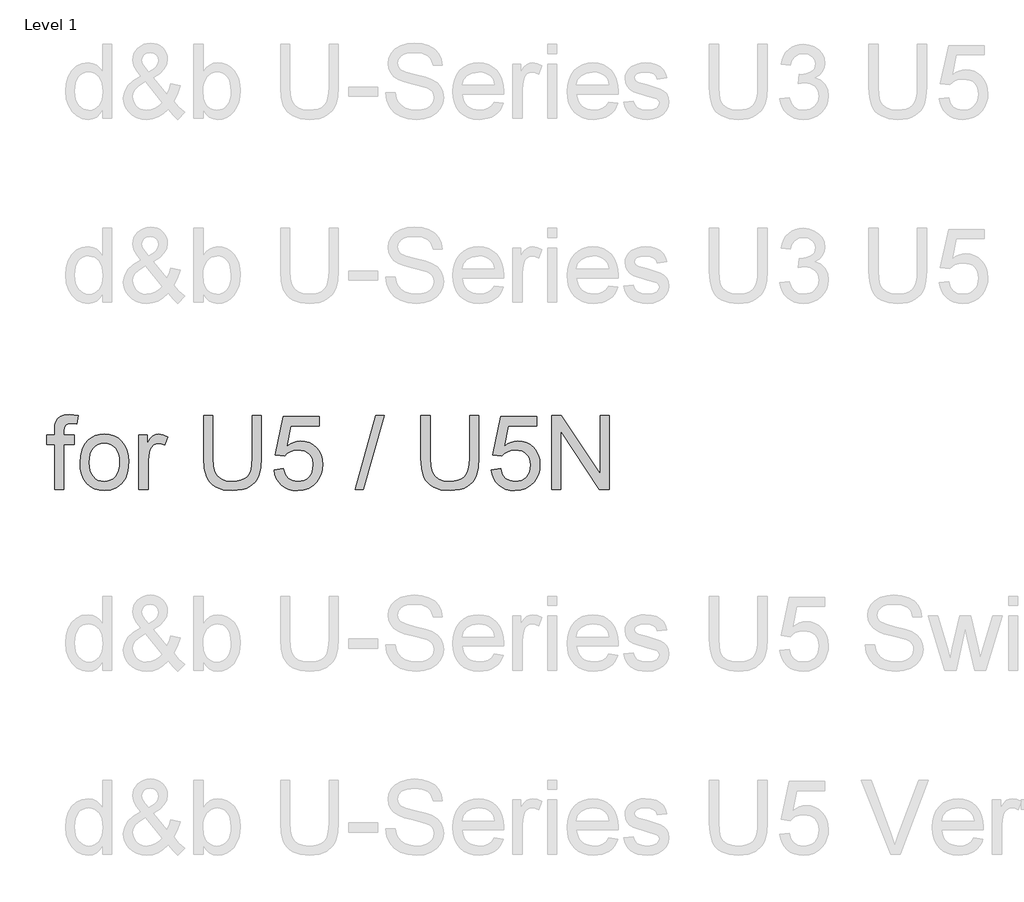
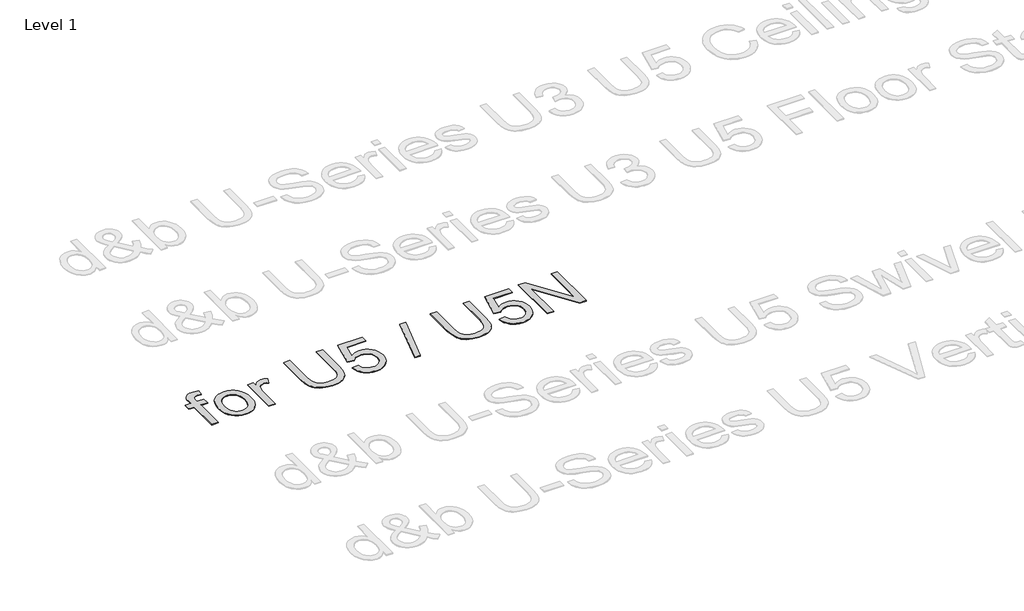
# One storey, part 8 of 29: 1 proxy.
"""IFC4 building model written with IfcOpenShell, lengths in millimetres."""

from ifc_helpers import new_model, si_unit, origin, origin_with_axes, place, context, project, spatial, polyline, outline, extrude, element, save

model = new_model("IFC4")

# Units and contexts
model_context = context("Model", 3, world=origin())
ifc_project = project(units=[si_unit("LENGTHUNIT", "METRE", prefix="MILLI")], contexts=[model_context])

# Site, building, storey
site = spatial("IfcSite", under=ifc_project)
building = spatial("IfcBuilding", under=site)
storey = spatial("IfcBuildingStorey", under=building, Name="Level 1", Elevation=0.0)

# Proxy
placement = place(None, origin())
element("IfcBuildingElementProxy", 1, Name="400mm Arial", ObjectType="400mm Arial", at=placement, inside=storey, context=model_context, shape_type="SweptSolid", body=[
    extrude(outline(polyline([(-21049.3412208, -2853.4987699), (-21049.3412208, -2608.636514), (-21093.2908565, -2608.636514), (-21093.2908565, -2558.4083589), (-21049.3412208, -2558.4083589), (-21049.3412208, -2528.6834937), (-21048.0168456, -2504.0844509), (-21044.0437201, -2486.7939971), (-21033.9392279, -2470.0921546), (-21018.3410313, -2456.8729282), (-20996.5133663, -2448.2644895), (-20967.7204688, -2445.39501), (-20921.9068977, -2450.8887144), (-20929.2645376, -2497.9776098), (-20958.2045879, -2495.623165), (-20977.2976634, -2497.7078297), (-20989.8424395, -2503.9618236), (-20996.7954092, -2515.9057257), (-20999.1130657, -2535.0601149), (-20999.1130657, -2558.4083589), (-20942.6063913, -2558.4083589), (-20942.6063913, -2608.636514), (-20999.1130657, -2608.636514), (-20999.1130657, -2853.4987699), (-21049.3412208, -2853.4987699)])), origin_with_axes(), (0.0, 0.0, 1.0), 5.0),
    extrude(outline(polyline([(-20911.2137944, -2705.9535644), (-20908.497599, -2667.7367565), (-20900.3490128, -2634.8051865), (-20886.7680358, -2607.1588546), (-20867.754668, -2584.7977607), (-20848.6125415, -2570.5055452), (-20827.4838522, -2560.2968198), (-20804.3686002, -2554.1715846), (-20779.2667854, -2552.1298395), (-20751.5560741, -2554.6161086), (-20726.5002446, -2562.0749161), (-20704.0992967, -2574.5062618), (-20684.3532307, -2591.9101459), (-20668.2369336, -2613.6979571), (-20656.7252928, -2639.2810841), (-20649.8183084, -2668.6595271), (-20647.5159802, -2701.8332861), (-20651.5872076, -2752.5764759), (-20663.8008899, -2791.2040854), (-20683.8014077, -2820.131873), (-20711.2331418, -2841.775597), (-20743.8152238, -2855.2768663), (-20779.2667854, -2859.7772893), (-20807.3821669, -2857.3002172), (-20832.6709884, -2849.8690009), (-20855.1332499, -2837.4836404), (-20874.7689514, -2820.1441357), (-20890.7135702, -2798.1447924), (-20902.1025836, -2771.7799161), (-20908.9359917, -2741.0495067), (-20911.2137944, -2705.9535644)]), holes=[polyline([(-20860.9856393, -2705.8554625), (-20859.5325054, -2730.2184477), (-20855.1731038, -2751.3134144), (-20847.9074343, -2769.1403628), (-20837.7354972, -2783.6992927), (-20825.3623994, -2795.0085984), (-20811.4932482, -2803.0866739), (-20796.1280435, -2807.9335192), (-20779.2667854, -2809.5491343), (-20762.4913664, -2807.9243221), (-20747.1874754, -2803.0498857), (-20733.3551124, -2794.9258249), (-20720.9942774, -2783.5521399), (-20710.8223402, -2768.8491229), (-20703.5566708, -2750.737066), (-20699.1972692, -2729.2159692), (-20697.7441353, -2704.2858327), (-20699.2064662, -2680.6953998), (-20703.593459, -2660.152256), (-20710.9051137, -2642.6564015), (-20721.1414302, -2628.2078361), (-20733.5482505, -2616.8985304), (-20747.3714164, -2608.8204549), (-20762.6109281, -2603.9736097), (-20779.2667854, -2602.3579946), (-20796.1280435, -2603.9674783), (-20811.4932482, -2608.7959295), (-20825.3623994, -2616.8433481), (-20837.7354972, -2628.1097342), (-20847.9074343, -2642.6257446), (-20855.1731038, -2660.4220361), (-20859.5325054, -2681.4986088), (-20860.9856393, -2705.8554625)])]), origin_with_axes(), (0.0, 0.0, 1.0), 5.0),
    extrude(outline(polyline([(-20591.0093057, -2853.4987699), (-20591.0093057, -2558.4083589), (-20547.0596701, -2558.4083589), (-20547.0596701, -2602.063689), (-20530.8238113, -2576.7534077), (-20515.8632769, -2561.8419242), (-20500.8536915, -2554.5578607), (-20484.4706799, -2552.1298395), (-20459.4547043, -2556.0048632), (-20434.0463211, -2567.6299342), (-20450.8217401, -2612.6586904), (-20468.4800759, -2604.9331685), (-20486.1384117, -2602.3579946), (-20501.1357343, -2604.8350667), (-20514.5389017, -2612.266283), (-20525.3668951, -2624.0875577), (-20532.6386958, -2639.7348053), (-20538.745537, -2667.7919388), (-20540.7811507, -2698.3997208), (-20540.7811507, -2853.4987699), (-20591.0093057, -2853.4987699)])), origin_with_axes(), (0.0, 0.0, 1.0), 5.0),
    extrude(outline(polyline([(-19975.7144061, -2451.6735293), (-19925.486251, -2451.6735293), (-19925.486251, -2683.4882372), (-19928.8952908, -2737.775357), (-19939.1224103, -2779.5790144), (-19947.3077847, -2796.532243), (-19958.2277486, -2811.8300026), (-19988.2714449, -2837.459115), (-20007.4135713, -2847.2233162), (-20029.3270755, -2854.1977457), (-20081.468217, -2859.7772893), (-20132.4689242, -2854.921247), (-20173.242512, -2840.35312), (-20189.7972018, -2829.5527177), (-20203.8012431, -2816.5756804), (-20215.2546359, -2801.4220078), (-20224.1573802, -2784.0917002), (-20235.5985102, -2740.5222092), (-20239.4122202, -2683.4882372), (-20239.4122202, -2451.6735293), (-20189.1840652, -2451.6735293), (-20189.1840652, -2681.7224037), (-20186.706993, -2726.8615245), (-20179.2757767, -2758.2909096), (-20165.8112957, -2780.057261), (-20145.2344295, -2796.2072806), (-20118.4035693, -2806.2136708), (-20086.1771065, -2809.5491343), (-20058.4939864, -2807.8997966), (-20035.0905601, -2802.9517838), (-20015.9668277, -2794.7050957), (-20001.1227892, -2783.1597325), (-19990.0066216, -2766.9238737), (-19982.0665019, -2744.6056994), (-19977.30243, -2716.2052093), (-19975.7144061, -2681.7224037), (-19975.7144061, -2451.6735293)])), origin_with_axes(), (0.0, 0.0, 1.0), 5.0),
    extrude(outline(polyline([(-19856.4225378, -2746.7639404), (-19806.1943827, -2740.485421), (-19796.9728074, -2770.6394819), (-19780.8841014, -2792.234155), (-19758.0018413, -2805.2203894), (-19728.3996035, -2809.5491343), (-19709.2697397, -2808.0438838), (-19692.3962189, -2803.5281323), (-19677.7790409, -2796.0018798), (-19665.4182059, -2785.4651263), (-19655.5896252, -2772.439038), (-19648.5692105, -2757.444781), (-19642.9528787, -2721.551761), (-19648.2135912, -2687.7556684), (-19654.7894819, -2673.8374662), (-19663.9957288, -2661.9058269), (-19675.8629889, -2652.3347636), (-19690.4219188, -2645.4982899), (-19727.6147885, -2640.0291109), (-19751.9808393, -2642.2118774), (-19771.711577, -2648.7601769), (-19787.4691892, -2658.7910926), (-19799.9158633, -2671.4217078), (-19850.1440184, -2665.1431884), (-19806.1943827, -2457.9520487), (-19611.5602818, -2457.9520487), (-19611.5602818, -2508.1802038), (-19765.5802104, -2508.1802038), (-19787.1626208, -2618.839108), (-19769.43684, -2606.1349164), (-19751.2818636, -2597.0604938), (-19732.6976914, -2591.6158403), (-19713.6843237, -2589.8009558), (-19689.220171, -2592.0511673), (-19666.7425811, -2598.8018019), (-19646.2515539, -2610.0528596), (-19627.7470896, -2625.8043404), (-19612.4248045, -2645.0936197), (-19601.4803151, -2666.9580729), (-19594.9136215, -2691.3977001), (-19592.7247236, -2718.4125013), (-19594.6928923, -2744.4340211), (-19600.5973983, -2768.6406564), (-19610.4382417, -2791.0324072), (-19624.2154224, -2811.6092734), (-19645.0865943, -2832.6827804), (-19669.4403824, -2847.7352853), (-19697.2767867, -2856.7667883), (-19728.5958072, -2859.7772893), (-19754.5161594, -2857.8428432), (-19777.9287827, -2852.0395047), (-19798.8336771, -2842.3672739), (-19817.2308426, -2828.8261508), (-19832.5377992, -2812.0905857), (-19844.1720673, -2792.8350289), (-19852.1336469, -2771.0594805), (-19856.4225378, -2746.7639404)])), origin_with_axes(), (0.0, 0.0, 1.0), 5.0),
    extrude(outline(polyline([(-19416.9261809, -2853.4987699), (-19303.912832, -2451.6735293), (-19258.3935664, -2451.6735293), (-19371.5050172, -2853.4987699), (-19416.9261809, -2853.4987699)])), origin_with_axes(), (0.0, 0.0, 1.0), 5.0),
    extrude(outline(polyline([(-18795.3527618, -2451.6735293), (-18745.1246067, -2451.6735293), (-18745.1246067, -2683.4882372), (-18748.5336466, -2737.775357), (-18758.760766, -2779.5790144), (-18766.9461404, -2796.532243), (-18777.8661043, -2811.8300026), (-18807.9098006, -2837.459115), (-18827.0519271, -2847.2233162), (-18848.9654313, -2854.1977457), (-18901.1065727, -2859.7772893), (-18952.10728, -2854.921247), (-18992.8808678, -2840.35312), (-19009.4355576, -2829.5527177), (-19023.4395988, -2816.5756804), (-19034.8929916, -2801.4220078), (-19043.7957359, -2784.0917002), (-19055.236866, -2740.5222092), (-19059.050576, -2683.4882372), (-19059.050576, -2451.6735293), (-19008.8224209, -2451.6735293), (-19008.8224209, -2681.7224037), (-19006.3453488, -2726.8615245), (-18998.9141325, -2758.2909096), (-18985.4496515, -2780.057261), (-18964.8727852, -2796.2072806), (-18938.041925, -2806.2136708), (-18905.8154622, -2809.5491343), (-18878.1323421, -2807.8997966), (-18854.7289158, -2802.9517838), (-18835.6051835, -2794.7050957), (-18820.761145, -2783.1597325), (-18809.6449773, -2766.9238737), (-18801.7048576, -2744.6056994), (-18796.9407858, -2716.2052093), (-18795.3527618, -2681.7224037), (-18795.3527618, -2451.6735293)])), origin_with_axes(), (0.0, 0.0, 1.0), 5.0),
    extrude(outline(polyline([(-18676.0608935, -2746.7639404), (-18625.8327384, -2740.485421), (-18616.6111631, -2770.6394819), (-18600.5224572, -2792.234155), (-18577.6401971, -2805.2203894), (-18548.0379592, -2809.5491343), (-18528.9080955, -2808.0438838), (-18512.0345746, -2803.5281323), (-18497.4173967, -2796.0018798), (-18485.0565616, -2785.4651263), (-18475.227981, -2772.439038), (-18468.2075662, -2757.444781), (-18462.5912345, -2721.551761), (-18467.851947, -2687.7556684), (-18474.4278376, -2673.8374662), (-18483.6340846, -2661.9058269), (-18495.5013446, -2652.3347636), (-18510.0602746, -2645.4982899), (-18547.2531443, -2640.0291109), (-18571.6191951, -2642.2118774), (-18591.3499328, -2648.7601769), (-18607.1075449, -2658.7910926), (-18619.5542191, -2671.4217078), (-18669.7823741, -2665.1431884), (-18625.8327384, -2457.9520487), (-18431.1986375, -2457.9520487), (-18431.1986375, -2508.1802038), (-18585.2185662, -2508.1802038), (-18606.8009766, -2618.839108), (-18589.0751958, -2606.1349164), (-18570.9202193, -2597.0604938), (-18552.3360472, -2591.6158403), (-18533.3226794, -2589.8009558), (-18508.8585267, -2592.0511673), (-18486.3809368, -2598.8018019), (-18465.8899097, -2610.0528596), (-18447.3854453, -2625.8043404), (-18432.0631602, -2645.0936197), (-18421.1186709, -2666.9580729), (-18414.5519773, -2691.3977001), (-18412.3630794, -2718.4125013), (-18414.3312481, -2744.4340211), (-18420.2357541, -2768.6406564), (-18430.0765974, -2791.0324072), (-18443.8537782, -2811.6092734), (-18464.72495, -2832.6827804), (-18489.0787381, -2847.7352853), (-18516.9151424, -2856.7667883), (-18548.2341629, -2859.7772893), (-18574.1545152, -2857.8428432), (-18597.5671385, -2852.0395047), (-18618.4720329, -2842.3672739), (-18636.8691983, -2828.8261508), (-18652.176155, -2812.0905857), (-18663.8104231, -2792.8350289), (-18671.7720026, -2771.0594805), (-18676.0608935, -2746.7639404)])), origin_with_axes(), (0.0, 0.0, 1.0), 5.0),
    extrude(outline(polyline([(-18349.5778855, -2853.4987699), (-18349.5778855, -2451.6735293), (-18295.8180633, -2451.6735293), (-18085.8800714, -2770.0140825), (-18085.8800714, -2451.6735293), (-18035.6519163, -2451.6735293), (-18035.6519163, -2853.4987699), (-18089.4117385, -2853.4987699), (-18299.3497305, -2535.0601149), (-18299.3497305, -2853.4987699), (-18349.5778855, -2853.4987699)])), origin_with_axes(), (0.0, 0.0, 1.0), 5.0),
])

save(model, "model.ifc")
